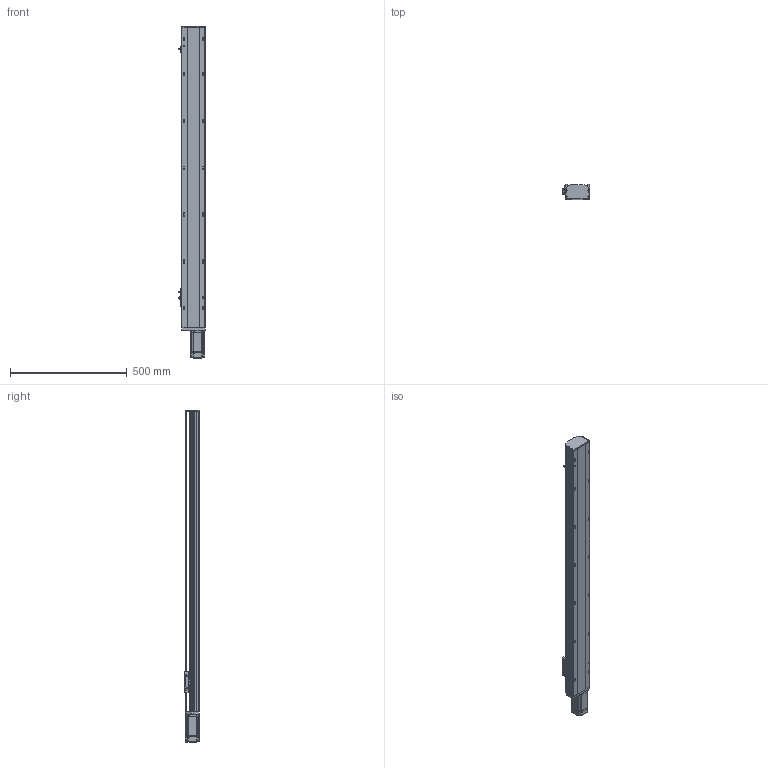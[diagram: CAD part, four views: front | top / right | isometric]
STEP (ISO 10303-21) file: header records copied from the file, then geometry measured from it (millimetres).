
FILE_DESCRIPTION (( 'STEP AP214' ), '1' );
FILE_NAME ('QTH10-1050-BC-P20.STEP', '2021-11-13T14:13:53', ( '' ), ( '' ), 'SwSTEP 2.0', 'SolidWorks 2020', '' );
FILE_SCHEMA (( 'AUTOMOTIVE_DESIGN' ));
Length unit declared in the file: millimetre
Products named in the file (6): QTH10-1050-BC-P20; 葩璃 QTH10-BC-005 賑釱MZ-102A-03 ^QTH10-BC-P20; 葩璃 pm-t65-672^QTH10-BC-P20; 葩璃 QTH10-BC-001 菁釱MZ-102A-01^QTH10-BC-P20; 葩璃 QTH10-BC-002 奻裔MZ-102A-02^QTH10-BC-P20; 葩璃 侂狟400W^QTH10-BC-P20
Assembly tree (7 placements, depth 2):
  QTH10-1050-BC-P20
    葩璃 QTH10-BC-001 菁釱MZ-102A-01^QTH10-BC-P20
    葩璃 QTH10-BC-002 奻裔MZ-102A-02^QTH10-BC-P20
    葩璃 QTH10-BC-005 賑釱MZ-102A-03 ^QTH10-BC-P20
    葩璃 pm-t65-672^QTH10-BC-P20  x3
    葩璃 侂狟400W^QTH10-BC-P20
Bounding box: 117.2 x 66 x 1419 mm (x, y, z)
Volume: 3223735.7 mm3; surface area: 807865 mm2
Topology: 11 solids, 11 shells, 1245 faces, 3372 edges, 2204 vertices
Faces by surface type: plane 732, cylinder 435, cone 60, bspline 18
Entity records: 34055 total; most frequent: CARTESIAN_POINT 6407, DIRECTION 5591, ORIENTED_EDGE 5400, EDGE_CURVE 2700, AXIS2_PLACEMENT_3D 1940, VERTEX_POINT 1780, LINE 1711, VECTOR 1711
